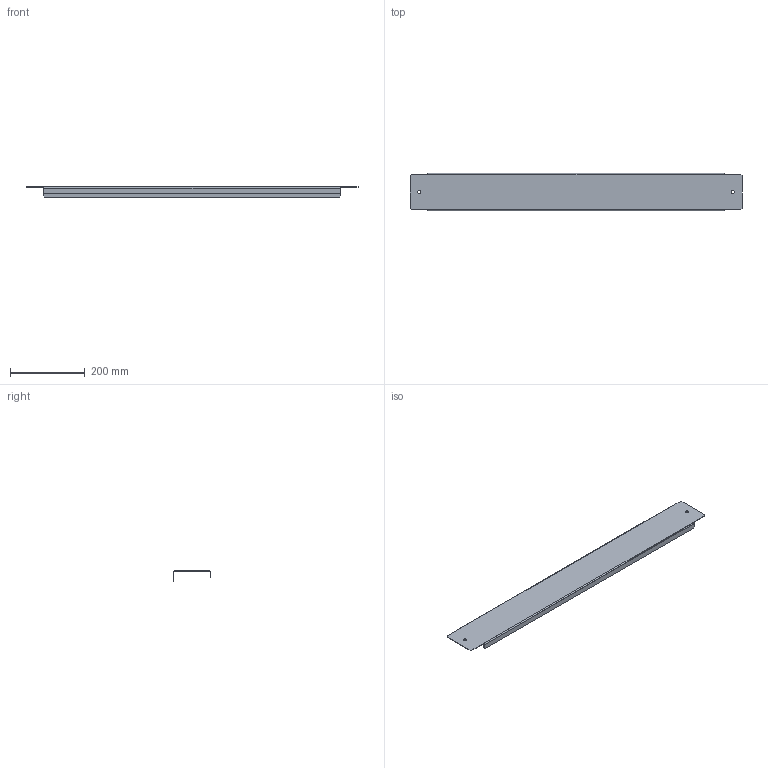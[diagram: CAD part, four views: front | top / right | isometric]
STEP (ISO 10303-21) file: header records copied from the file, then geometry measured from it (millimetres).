
FILE_DESCRIPTION (( 'STEP AP203' ), '1' );
FILE_NAME ('ZA 100 Ïàíåëü öîêîëÿ.STEP', '2012-11-20T05:16:53', ( 'system' ), ( '' ), 'SwSTEP 2.0', 'SolidWorks 2012', '' );
FILE_SCHEMA (( 'CONFIG_CONTROL_DESIGN' ));
Length unit declared in the file: millimetre
Products named in the file (1): ZA 100 Ïàíåëü öîêîëÿ
Bounding box: 886.5 x 99 x 27 mm (x, y, z)
Volume: 164738.1 mm3; surface area: 238255.8 mm2
Topology: 1 solids, 1 shells, 44 faces, 110 edges, 68 vertices
Faces by surface type: plane 34, cylinder 10
Entity records: 1371 total; most frequent: CARTESIAN_POINT 223, ORIENTED_EDGE 220, DIRECTION 220, EDGE_CURVE 110, VECTOR 90, LINE 90, VERTEX_POINT 68, AXIS2_PLACEMENT_3D 65
